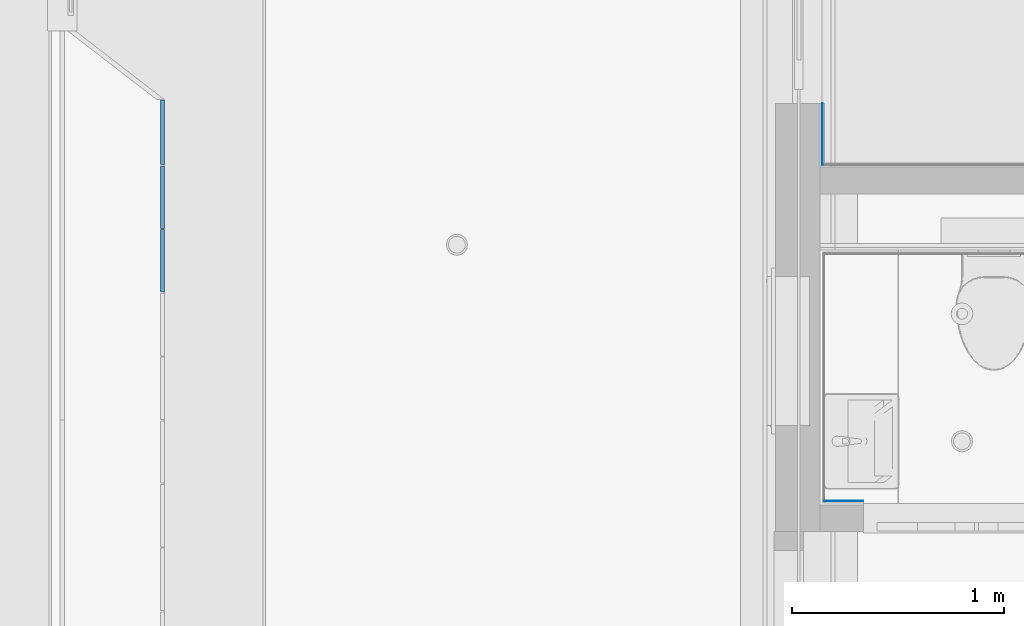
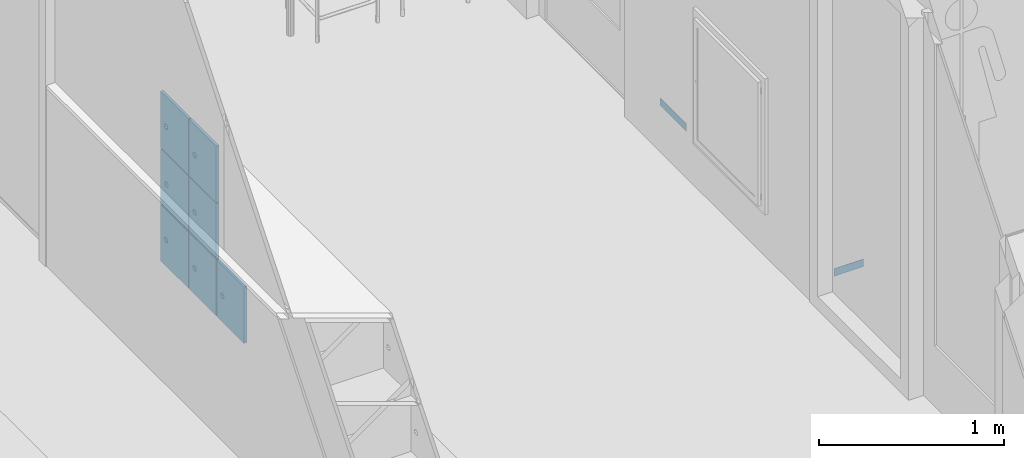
# One storey, part 133 of 347: 9 building element parts, 3 elements without a shape of their own.
"""IFC2X3 building model written with IfcOpenShell, lengths in millimetres."""

from ifc_helpers import new_model, entity, si_unit, converted_unit, derived_unit, money_unit, direction, frame, origin_with_axes, place, context, subcontext, project, spatial, faceted_brep, material, type_object, element, aggregate, save


model = new_model("IFC2X3")

# Units and contexts
model_context = context("Model", 3, precision=0.01, world=origin_with_axes(), true_north=direction((0.0, 1.0)))
plan_context = context("Plan", 3, precision=0.01, world=origin_with_axes(), true_north=direction((0.0, 1.0)))
body_context = subcontext(model_context, "Body", "Model", "MODEL_VIEW")
ifc_project = project(units=[si_unit("LENGTHUNIT", "METRE", prefix="MILLI"), si_unit("AREAUNIT", "SQUARE_METRE"), si_unit("VOLUMEUNIT", "CUBIC_METRE"), converted_unit("PLANEANGLEUNIT", "DEGREE", entity("IfcPlaneAngleMeasure", 0.0174532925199), si_unit("PLANEANGLEUNIT", "RADIAN"), dimensions=[0, 0, 0, 0, 0, 0, 0]), money_unit("EUR"), converted_unit("TIMEUNIT", "Year", entity("IfcTimeMeasure", 31556926.0), si_unit("TIMEUNIT", "SECOND"), dimensions=[0, 0, 1, 0, 0, 0, 0]), si_unit("MASSUNIT", "GRAM", prefix="KILO"), si_unit("THERMODYNAMICTEMPERATUREUNIT", "DEGREE_CELSIUS"), si_unit("LUMINOUSINTENSITYUNIT", "LUMEN"), si_unit("ENERGYUNIT", "JOULE", prefix="MEGA"), derived_unit("THERMALCONDUCTANCEUNIT", [(si_unit("POWERUNIT", "WATT"), 1), (si_unit("LENGTHUNIT", "METRE"), -1), (si_unit("THERMODYNAMICTEMPERATUREUNIT", "KELVIN"), -1)]), derived_unit("SPECIFICHEATCAPACITYUNIT", [(si_unit("ENERGYUNIT", "JOULE"), 1), (si_unit("MASSUNIT", "GRAM", prefix="KILO"), -1), (si_unit("THERMODYNAMICTEMPERATUREUNIT", "KELVIN"), -1)]), derived_unit("MASSDENSITYUNIT", [(si_unit("MASSUNIT", "GRAM", prefix="KILO"), 1), (si_unit("VOLUMEUNIT", "CUBIC_METRE"), -1)])], contexts=[model_context, plan_context])

# Site, building, storey
site_placement = place(None, origin_with_axes())
site = spatial("IfcSite", under=ifc_project, at=site_placement, Name="Site", CompositionType="ELEMENT")
building_placement = place(site_placement, origin_with_axes())
building = spatial("IfcBuilding", under=site, at=building_placement, Name="Naam gebouw", CompositionType="ELEMENT")
storey_placement = place(building_placement, origin_with_axes())
storey = spatial("IfcBuildingStorey", under=building, at=storey_placement, Name="begane grond", CompositionType="ELEMENT", Elevation=0.0)

# Proxy, building element part
building_element_proxy_type = type_object("IfcBuildingElementProxyType", Name="wandtegels 150x300 2600+ 10 x 2600", PredefinedType="NOTDEFINED")
proxy_1_placement = place(storey_placement, frame((35724.9999028, 32089.9999277, 0.0), z_axis=(0.0, 0.0, 1.0), x_axis=(0.0, -1.0, 0.0)))
proxy_1 = element("IfcBuildingElementProxy", 1, at=proxy_1_placement, inside=storey, type_object=building_element_proxy_type, Name="42_44 wandtegels keramisch")
ifc_material_1 = material(Name="48 vloeivloer Bolidt")
building_element_part_1_placement = place(proxy_1_placement, origin_with_axes())
building_element_part_1 = element("IfcBuildingElementPart", 2, at=building_element_part_1_placement, material=ifc_material_1, Name="48 vloeivloer Bolidt", context=body_context, shape_type="Brep", body=[
    faceted_brep([(288.000014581, -10.0000089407, 50.0000059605), (288.000014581, -8.00001490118, 50.0000059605), (0.0, -8.00001490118, 50.0000059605), (0.0, -10.0000089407, 50.0000059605), (288.000014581, -8.00001490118, 0.0), (288.000014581, -10.0000089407, 0.0), (0.0, -8.00001490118, 0.0), (0.0, -10.0000089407, 0.0)], [[[0, 1, 2, 3]], [[4, 1, 0, 5]], [[1, 4, 6, 2]], [[6, 7, 3, 2]], [[5, 0, 3, 7]], [[4, 5, 7, 6]]]),
])
aggregate(proxy_1, [building_element_part_1])

proxy_2_placement = place(storey_placement, frame((35715.0, 30209.9999277, 0.0), z_axis=(0.0, 0.0, 1.0), x_axis=(1.0, 0.0, 0.0)))
proxy_2 = element("IfcBuildingElementProxy", 3, at=proxy_2_placement, inside=storey, type_object=building_element_proxy_type, Name="42_51 wandtegels keramisch")
building_element_part_2_placement = place(proxy_2_placement, origin_with_axes())
building_element_part_2 = element("IfcBuildingElementPart", 4, at=building_element_part_2_placement, material=ifc_material_1, Name="48 vloeivloer Bolidt", context=body_context, shape_type="Brep", body=[
    faceted_brep([(10.0000089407, 10.0000089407, 0.0), (10.0000089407, 10.0000089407, 50.0000059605), (193.5, 10.0000089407, 50.0000059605), (193.5, 10.0000089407, 0.0), (10.0000089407, 8.00001490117, 50.0000059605), (10.0000089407, 8.00001490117, 0.0), (193.5, 8.00001490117, 50.0000059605), (193.5, 8.00001490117, 0.0)], [[[0, 1, 2, 3]], [[4, 1, 0, 5]], [[1, 4, 6, 2]], [[6, 7, 3, 2]], [[5, 0, 3, 7]], [[4, 5, 7, 6]]]),
])
aggregate(proxy_2, [building_element_part_2])

# Beam, building element parts
beam_type = type_object("IfcBeamType", Name="VI Garderobe 01 3012 x 1122", PredefinedType="BEAM")
beam_placement = place(storey_placement, frame((32618.0279766, 32105.5, 0.0), z_axis=(0.0, 0.0, 1.0), x_axis=(0.0, 1.0, 0.0)))
beam = element("IfcBeam", 5, at=beam_placement, inside=storey, type_object=beam_type, Name="28_Balk-x", ObjectType="BEAM")
ifc_material_2 = material(Name="Hout - Lockers")
building_element_part_3_placement = place(beam_placement, origin_with_axes())
building_element_part_3 = element("IfcBuildingElementPart", 6, at=building_element_part_3_placement, material=ifc_material_2, Name="Hout - Lockers", context=body_context, shape_type="Brep", body=[
    faceted_brep([(-303.0, 18.0, 1175.0), (-303.0, 18.0, 802.0), (-303.0, 0.0, 802.0), (-303.0, 0.0, 1175.0), (0.0, 18.0, 1175.0), (0.0, 18.0, 802.0), (-72.7648820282, 18.0, 985.596289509), (-76.2025761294, 18.0, 975.016154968), (-72.7648820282, 18.0, 964.436020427), (-63.7648820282, 18.0, 957.897137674), (-52.6402702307, 18.0, 957.897137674), (-43.6402702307, 18.0, 964.436020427), (-40.2025761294, 18.0, 975.016154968), (-43.6402702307, 18.0, 985.596289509), (-52.6402702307, 18.0, 992.135172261), (-63.7648820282, 18.0, 992.135172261), (0.0, 0.0, 802.0), (0.0, 0.0, 1175.0), (-72.7648820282, 0.0, 985.596289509), (-63.7648820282, 0.0, 992.135172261), (-52.6402702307, 0.0, 992.135172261), (-43.6402702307, 0.0, 985.596289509), (-40.2025761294, 0.0, 975.016154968), (-43.6402702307, 0.0, 964.436020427), (-52.6402702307, 0.0, 957.897137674), (-63.7648820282, 0.0, 957.897137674), (-72.7648820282, 0.0, 964.436020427), (-76.2025761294, 0.0, 975.016154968)], [[[0, 1, 2, 3]], [[0, 4, 5, 1], [6, 7, 8, 9, 10, 11, 12, 13, 14, 15]], [[1, 5, 16, 2]], [[3, 2, 16, 17], [18, 19, 20, 21, 22, 23, 24, 25, 26, 27]], [[4, 0, 3, 17]], [[5, 4, 17, 16]], [[7, 6, 18, 27]], [[8, 7, 27, 26]], [[9, 8, 26, 25]], [[10, 9, 25, 24]], [[11, 10, 24, 23]], [[12, 11, 23, 22]], [[13, 12, 22, 21]], [[14, 13, 21, 20]], [[15, 14, 20, 19]], [[6, 15, 19, 18]]]),
])
building_element_part_4_placement = place(beam_placement, origin_with_axes())
building_element_part_4 = element("IfcBuildingElementPart", 7, at=building_element_part_4_placement, material=ifc_material_2, Name="Hout - Lockers", context=body_context, shape_type="Brep", body=[
    faceted_brep([(-303.0, 18.0, 796.0), (-303.0, 18.0, 432.0), (-303.0, 0.0, 432.0), (-303.0, 0.0, 796.0), (0.0, 18.0, 796.0), (0.0, 18.0, 432.0), (-47.9978639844, 18.0, 585.45264318), (-44.5601698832, 18.0, 596.032777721), (-47.9978639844, 18.0, 606.612912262), (-56.9978639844, 18.0, 613.151795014), (-68.1224757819, 18.0, 613.151795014), (-77.1224757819, 18.0, 606.612912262), (-80.5601698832, 18.0, 596.032777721), (-77.1224757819, 18.0, 585.45264318), (-68.1224757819, 18.0, 578.913760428), (-56.9978639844, 18.0, 578.913760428), (0.0, 0.0, 432.0), (0.0, 0.0, 796.0), (-47.9978639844, 0.0, 585.45264318), (-56.9978639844, 0.0, 578.913760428), (-68.1224757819, 0.0, 578.913760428), (-77.1224757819, 0.0, 585.45264318), (-80.5601698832, 0.0, 596.032777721), (-77.1224757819, 0.0, 606.612912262), (-68.1224757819, 0.0, 613.151795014), (-56.9978639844, 0.0, 613.151795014), (-47.9978639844, 0.0, 606.612912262), (-44.5601698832, 0.0, 596.032777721)], [[[0, 1, 2, 3]], [[0, 4, 5, 1], [6, 7, 8, 9, 10, 11, 12, 13, 14, 15]], [[1, 5, 16, 2]], [[3, 2, 16, 17], [18, 19, 20, 21, 22, 23, 24, 25, 26, 27]], [[4, 0, 3, 17]], [[5, 4, 17, 16]], [[7, 6, 18, 27]], [[8, 7, 27, 26]], [[9, 8, 26, 25]], [[10, 9, 25, 24]], [[11, 10, 24, 23]], [[12, 11, 23, 22]], [[13, 12, 22, 21]], [[14, 13, 21, 20]], [[15, 14, 20, 19]], [[6, 15, 19, 18]]]),
])
building_element_part_5_placement = place(beam_placement, origin_with_axes())
building_element_part_5 = element("IfcBuildingElementPart", 8, at=building_element_part_5_placement, material=ifc_material_2, Name="Hout - Lockers", context=body_context, shape_type="Brep", body=[
    faceted_brep([(-303.0, 18.0, 426.0), (-303.0, 18.0, 53.0), (-303.0, 0.0, 53.0), (-303.0, 0.0, 426.0), (0.0, 18.0, 426.0), (0.0, 18.0, 53.0), (-74.5623058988, 18.0, 236.580134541), (-78.0, 18.0, 226.0), (-74.5623058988, 18.0, 215.419865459), (-65.5623058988, 18.0, 208.880982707), (-54.4376941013, 18.0, 208.880982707), (-45.4376941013, 18.0, 215.419865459), (-42.0, 18.0, 226.0), (-45.4376941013, 18.0, 236.580134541), (-54.4376941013, 18.0, 243.119017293), (-65.5623058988, 18.0, 243.119017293), (0.0, 0.0, 53.0), (0.0, 0.0, 426.0), (-74.5623058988, 0.0, 236.580134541), (-65.5623058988, 0.0, 243.119017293), (-54.4376941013, 0.0, 243.119017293), (-45.4376941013, 0.0, 236.580134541), (-42.0, 0.0, 226.0), (-45.4376941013, 0.0, 215.419865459), (-54.4376941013, 0.0, 208.880982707), (-65.5623058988, 0.0, 208.880982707), (-74.5623058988, 0.0, 215.419865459), (-78.0, 0.0, 226.0)], [[[0, 1, 2, 3]], [[0, 4, 5, 1], [6, 7, 8, 9, 10, 11, 12, 13, 14, 15]], [[1, 5, 16, 2]], [[3, 2, 16, 17], [18, 19, 20, 21, 22, 23, 24, 25, 26, 27]], [[4, 0, 3, 17]], [[5, 4, 17, 16]], [[7, 6, 18, 27]], [[8, 7, 27, 26]], [[9, 8, 26, 25]], [[10, 9, 25, 24]], [[11, 10, 24, 23]], [[12, 11, 23, 22]], [[13, 12, 22, 21]], [[14, 13, 21, 20]], [[15, 14, 20, 19]], [[6, 15, 19, 18]]]),
])
building_element_part_6_placement = place(beam_placement, origin_with_axes())
building_element_part_6 = element("IfcBuildingElementPart", 9, at=building_element_part_6_placement, material=ifc_material_2, Name="Hout - Lockers", context=body_context, shape_type="Brep", body=[
    faceted_brep([(-603.0, 18.0, 1175.0), (-603.0, 18.0, 802.0), (-603.0, 0.0, 802.0), (-603.0, 0.0, 1175.0), (-309.0, 18.0, 1175.0), (-309.0, 18.0, 802.0), (-383.562305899, 18.0, 985.580134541), (-387.0, 18.0, 975.0), (-383.562305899, 18.0, 964.419865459), (-374.562305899, 18.0, 957.880982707), (-363.437694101, 18.0, 957.880982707), (-354.437694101, 18.0, 964.419865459), (-351.0, 18.0, 975.0), (-354.437694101, 18.0, 985.580134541), (-363.437694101, 18.0, 992.119017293), (-374.562305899, 18.0, 992.119017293), (-309.0, 0.0, 802.0), (-309.0, 0.0, 1175.0), (-383.562305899, 0.0, 985.580134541), (-374.562305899, 0.0, 992.119017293), (-363.437694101, 0.0, 992.119017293), (-354.437694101, 0.0, 985.580134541), (-351.0, 0.0, 975.0), (-354.437694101, 0.0, 964.419865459), (-363.437694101, 0.0, 957.880982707), (-374.562305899, 0.0, 957.880982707), (-383.562305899, 0.0, 964.419865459), (-387.0, 0.0, 975.0)], [[[0, 1, 2, 3]], [[0, 4, 5, 1], [6, 7, 8, 9, 10, 11, 12, 13, 14, 15]], [[1, 5, 16, 2]], [[3, 2, 16, 17], [18, 19, 20, 21, 22, 23, 24, 25, 26, 27]], [[4, 0, 3, 17]], [[5, 4, 17, 16]], [[7, 6, 18, 27]], [[8, 7, 27, 26]], [[9, 8, 26, 25]], [[10, 9, 25, 24]], [[11, 10, 24, 23]], [[12, 11, 23, 22]], [[13, 12, 22, 21]], [[14, 13, 21, 20]], [[15, 14, 20, 19]], [[6, 15, 19, 18]]]),
])
building_element_part_7_placement = place(beam_placement, origin_with_axes())
building_element_part_7 = element("IfcBuildingElementPart", 10, at=building_element_part_7_placement, material=ifc_material_2, Name="Hout - Lockers", context=body_context, shape_type="Brep", body=[
    faceted_brep([(-603.0, 18.0, 796.0), (-603.0, 18.0, 432.0), (-603.0, 0.0, 432.0), (-603.0, 0.0, 796.0), (-309.0, 18.0, 796.0), (-309.0, 18.0, 432.0), (-383.562305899, 18.0, 606.580134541), (-387.0, 18.0, 596.0), (-383.562305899, 18.0, 585.419865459), (-374.562305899, 18.0, 578.880982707), (-363.437694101, 18.0, 578.880982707), (-354.437694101, 18.0, 585.419865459), (-351.0, 18.0, 596.0), (-354.437694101, 18.0, 606.580134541), (-363.437694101, 18.0, 613.119017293), (-374.562305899, 18.0, 613.119017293), (-309.0, 0.0, 432.0), (-309.0, 0.0, 796.0), (-383.562305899, 0.0, 606.580134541), (-374.562305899, 0.0, 613.119017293), (-363.437694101, 0.0, 613.119017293), (-354.437694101, 0.0, 606.580134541), (-351.0, 0.0, 596.0), (-354.437694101, 0.0, 585.419865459), (-363.437694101, 0.0, 578.880982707), (-374.562305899, 0.0, 578.880982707), (-383.562305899, 0.0, 585.419865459), (-387.0, 0.0, 596.0)], [[[0, 1, 2, 3]], [[0, 4, 5, 1], [6, 7, 8, 9, 10, 11, 12, 13, 14, 15]], [[1, 5, 16, 2]], [[3, 2, 16, 17], [18, 19, 20, 21, 22, 23, 24, 25, 26, 27]], [[4, 0, 3, 17]], [[5, 4, 17, 16]], [[7, 6, 18, 27]], [[8, 7, 27, 26]], [[9, 8, 26, 25]], [[10, 9, 25, 24]], [[11, 10, 24, 23]], [[12, 11, 23, 22]], [[13, 12, 22, 21]], [[14, 13, 21, 20]], [[15, 14, 20, 19]], [[6, 15, 19, 18]]]),
])
building_element_part_8_placement = place(beam_placement, origin_with_axes())
building_element_part_8 = element("IfcBuildingElementPart", 11, at=building_element_part_8_placement, material=ifc_material_2, Name="Hout - Lockers", context=body_context, shape_type="Brep", body=[
    faceted_brep([(-603.0, 18.0, 426.0), (-603.0, 18.0, 53.0), (-603.0, 0.0, 53.0), (-603.0, 0.0, 426.0), (-309.0, 18.0, 426.0), (-309.0, 18.0, 53.0), (-383.562305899, 18.0, 236.580134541), (-387.0, 18.0, 226.0), (-383.562305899, 18.0, 215.419865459), (-374.562305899, 18.0, 208.880982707), (-363.437694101, 18.0, 208.880982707), (-354.437694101, 18.0, 215.419865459), (-351.0, 18.0, 226.0), (-354.437694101, 18.0, 236.580134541), (-363.437694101, 18.0, 243.119017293), (-374.562305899, 18.0, 243.119017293), (-309.0, 0.0, 53.0), (-309.0, 0.0, 426.0), (-383.562305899, 0.0, 236.580134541), (-374.562305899, 0.0, 243.119017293), (-363.437694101, 0.0, 243.119017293), (-354.437694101, 0.0, 236.580134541), (-351.0, 0.0, 226.0), (-354.437694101, 0.0, 215.419865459), (-363.437694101, 0.0, 208.880982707), (-374.562305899, 0.0, 208.880982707), (-383.562305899, 0.0, 215.419865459), (-387.0, 0.0, 226.0)], [[[0, 1, 2, 3]], [[0, 4, 5, 1], [6, 7, 8, 9, 10, 11, 12, 13, 14, 15]], [[1, 5, 16, 2]], [[3, 2, 16, 17], [18, 19, 20, 21, 22, 23, 24, 25, 26, 27]], [[4, 0, 3, 17]], [[5, 4, 17, 16]], [[7, 6, 18, 27]], [[8, 7, 27, 26]], [[9, 8, 26, 25]], [[10, 9, 25, 24]], [[11, 10, 24, 23]], [[12, 11, 23, 22]], [[13, 12, 22, 21]], [[14, 13, 21, 20]], [[15, 14, 20, 19]], [[6, 15, 19, 18]]]),
])
building_element_part_9_placement = place(beam_placement, origin_with_axes())
building_element_part_9 = element("IfcBuildingElementPart", 12, at=building_element_part_9_placement, material=ifc_material_2, Name="Hout - Lockers", context=body_context, shape_type="Brep", body=[
    faceted_brep([(-903.0, 18.0, 426.0), (-903.0, 18.0, 53.0), (-903.0, 0.0, 53.0), (-903.0, 0.0, 426.0), (-609.0, 18.0, 426.0), (-609.0, 18.0, 53.0), (-683.562305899, 18.0, 236.580134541), (-687.0, 18.0, 226.0), (-683.562305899, 18.0, 215.419865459), (-674.562305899, 18.0, 208.880982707), (-663.437694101, 18.0, 208.880982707), (-654.437694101, 18.0, 215.419865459), (-651.0, 18.0, 226.0), (-654.437694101, 18.0, 236.580134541), (-663.437694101, 18.0, 243.119017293), (-674.562305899, 18.0, 243.119017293), (-609.0, 0.0, 53.0), (-609.0, 0.0, 426.0), (-683.562305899, 0.0, 236.580134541), (-674.562305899, 0.0, 243.119017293), (-663.437694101, 0.0, 243.119017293), (-654.437694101, 0.0, 236.580134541), (-651.0, 0.0, 226.0), (-654.437694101, 0.0, 215.419865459), (-663.437694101, 0.0, 208.880982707), (-674.562305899, 0.0, 208.880982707), (-683.562305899, 0.0, 215.419865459), (-687.0, 0.0, 226.0)], [[[0, 1, 2, 3]], [[0, 4, 5, 1], [6, 7, 8, 9, 10, 11, 12, 13, 14, 15]], [[1, 5, 16, 2]], [[3, 2, 16, 17], [18, 19, 20, 21, 22, 23, 24, 25, 26, 27]], [[4, 0, 3, 17]], [[5, 4, 17, 16]], [[7, 6, 18, 27]], [[8, 7, 27, 26]], [[9, 8, 26, 25]], [[10, 9, 25, 24]], [[11, 10, 24, 23]], [[12, 11, 23, 22]], [[13, 12, 22, 21]], [[14, 13, 21, 20]], [[15, 14, 20, 19]], [[6, 15, 19, 18]]]),
])
aggregate(beam, [building_element_part_3, building_element_part_4, building_element_part_5, building_element_part_6, building_element_part_7, building_element_part_8, building_element_part_9])

save(model, "model.ifc")
